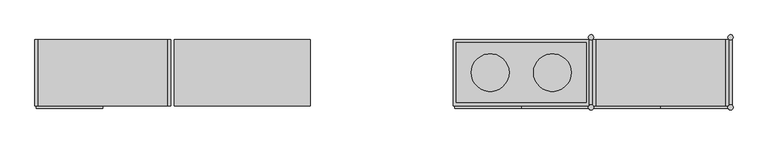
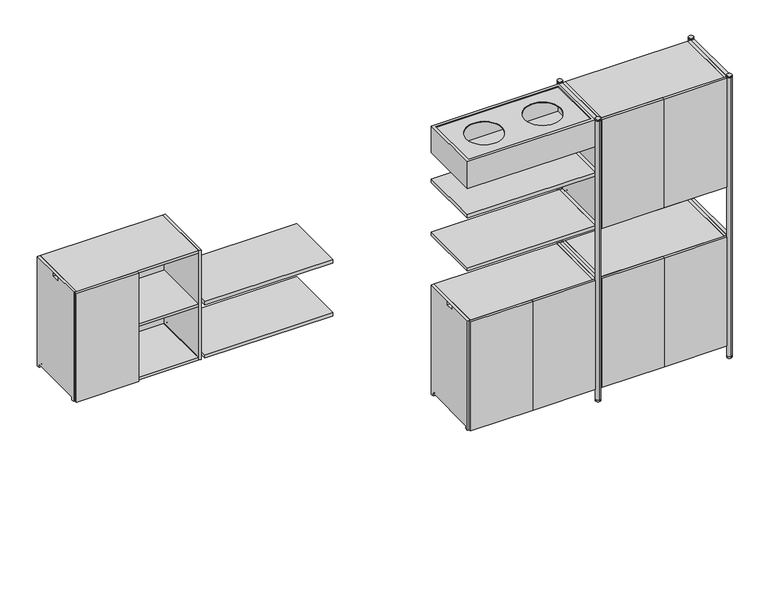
"""IFC4 building model written with IfcOpenShell, lengths in millimetres: furniture geometry, MAKR_TEMPLATE_900mmL : MAKR_TEMPLATE_900mmL."""

from ifc_helpers import new_model, si_unit, point, frame, frame_2d, origin, origin_with_axes, place, context, project, spatial, polyline, circle_curve, trimmed, segment, composite_curve, outline, extrude, source, transform, mapped, element, save
from ifc_brep_helpers import plane_surface, revolved_surface, advanced_brep


def furniture_001ad764(model_context):
    return source(origin(), model_context, "Body", "SolidModel", [
        extrude(outline(polyline([(1375.0, 218.5217186), (1375.0, -221.4782814), (475.0, -221.4782814), (475.0, 218.5217186), (1375.0, 218.5217186)])), frame((0.0, 0.0, 1274.0), z_axis=(0.0, 0.0, 1.0), x_axis=(1.0, 0.0, 0.0)), (0.0, 0.0, 1.0), 25.0),
        extrude(outline(polyline([(1375.0, 218.5217186), (1375.0, -221.4782814), (475.0, -221.4782814), (475.0, 218.5217186), (1375.0, 218.5217186)])), frame((0.0, 0.0, 1669.0), z_axis=(0.0, 0.0, 1.0), x_axis=(1.0, 0.0, 0.0)), (0.0, 0.0, 1.0), 25.0),
        extrude(outline(composite_curve([segment(polyline([(-221.4782814, 2089.0), (218.5217186, 2089.0), (218.5217186, 1274.0), (196.5217186, 1274.0), (196.5217186, 1291.0)]), True, "CONTINUOUS"), segment(trimmed(circle_curve(frame_2d((192.5217186, 1291.0)), 4.0), [point((196.5217186, 1291.0))], [point((192.5217186, 1295.0))], True, "CARTESIAN"), True, "CONTINUOUS"), segment(polyline([(192.5217186, 1295.0), (-195.4782814, 1295.0)]), True, "CONTINUOUS"), segment(trimmed(circle_curve(frame_2d((-195.4782814, 1291.0)), 4.0), [point((-195.4782814, 1295.0))], [point((-199.4782814, 1291.0))], True, "CARTESIAN"), True, "CONTINUOUS"), segment(polyline([(-199.4782814, 1291.0), (-199.4782814, 1274.0), (-221.4782814, 1274.0), (-221.4782814, 2089.0)]), True, "CONTINUOUS")], self_intersect=False), holes=[polyline([(-27.4782814, 2084.0), (-27.4782814, 2059.0), (24.5217186, 2059.0), (24.5217186, 2084.0), (-27.4782814, 2084.0)])]), frame((1400.0, 0.0, 0.0), z_axis=(1.0, 0.0, 0.0), x_axis=(0.0, 1.0, 0.0)), (0.0, 0.0, 1.0), 18.0),
        advanced_brep(
        [(2282.0, 218.5217186, 1292.0), (1418.0, 218.5217186, 1292.0), (1418.0, 196.394702, 1292.0), (1423.8980785, 196.394702, 1292.0), (1423.8980785, -199.3512647, 1292.0), (1418.0, -199.3512647, 1292.0), (1418.0, -221.4782814, 1292.0), (2282.0, -221.4782814, 1292.0), (2282.0, 218.5217186, 1274.0), (2282.0, -221.4782814, 1274.0), (1418.0, -221.4782814, 1274.0), (1418.0, -199.4782814, 1274.0), (1423.8980785, -199.4782814, 1274.0), (1423.8980785, 196.5217186, 1274.0), (1418.0, 196.5217186, 1274.0), (1418.0, 218.5217186, 1274.0), (1418.0, 196.5217186, 1291.0), (1418.0, -199.4782814, 1291.0), (1423.8980785, 196.5217186, 1291.0), (1423.8980785, -199.4782814, 1291.0)],
        [
            (0, 1),
            (1, 2),
            (2, 3),
            (3, 4),
            (4, 5),
            (5, 6),
            (6, 7),
            (7, 0),
            (8, 9),
            (9, 10),
            (10, 11),
            (11, 12),
            (12, 13),
            (13, 14),
            (14, 15),
            (15, 8),
            (0, 8),
            (15, 1),
            (14, 16),
            (16, 2, circle_curve(frame((1418.0, 192.5217186, 1291.0), z_axis=(1.0, 0.0, 0.0), x_axis=(0.0, 1.0, 0.0)), 4.0)),
            (10, 6),
            (5, 17, circle_curve(frame((1418.0, -195.4782814, 1291.0), z_axis=(1.0, 0.0, 0.0), x_axis=(0.0, 1.0, 0.0)), 4.0)),
            (17, 11),
            (9, 7),
            (18, 13),
            (12, 19),
            (19, 4, circle_curve(frame((1423.8980785, -195.4782814, 1291.0), z_axis=(-1.0, 0.0, 0.0), x_axis=(0.0, 1.0, 0.0)), 4.0)),
            (3, 18, circle_curve(frame((1423.8980785, 192.5217186, 1291.0), z_axis=(-1.0, 0.0, 0.0), x_axis=(0.0, 1.0, 0.0)), 4.0)),
            (19, 17),
            (18, 16),
        ],
        [
            plane_surface(frame((1418.0, 218.5217186, 1292.0), z_axis=(0.0, 0.0, 1.0), x_axis=(-1.0, 0.0, 0.0))),
            plane_surface(frame((1418.0, 218.5217186, 1274.0), z_axis=(0.0, 0.0, -1.0), x_axis=(1.0, 0.0, 0.0))),
            plane_surface(frame((2282.0, 218.5217186, 1292.0), z_axis=(0.0, 1.0, 0.0), x_axis=(0.0, 0.0, -1.0))),
            plane_surface(frame((1418.0, 218.5217186, 1292.0), z_axis=(-1.0, 0.0, 0.0), x_axis=(0.0, 0.0, -1.0))),
            plane_surface(frame((1418.0, -221.4782814, 1292.0), z_axis=(0.0, -1.0, 0.0), x_axis=(0.0, 0.0, -1.0))),
            plane_surface(frame((2282.0, -221.4782814, 1292.0), z_axis=(1.0, 0.0, 0.0), x_axis=(0.0, 0.0, -1.0))),
            plane_surface(frame((1423.8980785, -191.4782814, 1291.0), z_axis=(-1.0, 0.0, 0.0), x_axis=(0.0, 0.0, 1.0))),
            revolved_surface(polyline([(1423.8980785, -191.4782814, 1291.0), (1418.0, -191.4782814, 1291.0)]), (1393.9541772, -195.4782814, 1291.0), (1.0, 0.0, 0.0)),
            plane_surface(frame((1423.8980785, -199.4782814, 1291.0), z_axis=(0.0, 1.0, 0.0), x_axis=(-1.0, 0.0, 0.0))),
            plane_surface(frame((1423.8980785, 196.5217186, 1274.0), z_axis=(0.0, -1.0, 0.0), x_axis=(-1.0, 0.0, 0.0))),
            revolved_surface(polyline([(1423.8980785, 196.5217186, 1291.0), (1418.0, 196.5217186, 1291.0)]), (1393.9541772, 192.5217186, 1291.0), (1.0, 0.0, 0.0)),
        ],
        [
            (0, [[1, 2, 3, 4, 5, 6, 7, 8]]),
            (1, [[9, 10, 11, 12, 13, 14, 15, 16]]),
            (2, [[-1, 17, -16, 18]]),
            (3, [[-18, -15, 19, 20, -2]]),
            (3, [[21, -6, 22, 23, -11]]),
            (4, [[-7, -21, -10, 24]]),
            (5, [[-8, -24, -9, -17]]),
            (6, [[25, -13, 26, 27, -4, 28]]),
            (7, [[-27, 29, -22, -5]]),
            (8, [[-26, -12, -23, -29]]),
            (9, [[-25, 30, -19, -14]]),
            (10, [[-28, -3, -20, -30]]),
        ],
    ),
        extrude(outline(composite_curve([segment(polyline([(-221.4782814, 2089.0), (218.5217186, 2089.0), (218.5217186, 1274.0), (196.5217186, 1274.0), (196.5217186, 1291.0)]), True, "CONTINUOUS"), segment(trimmed(circle_curve(frame_2d((192.5217186, 1291.0)), 4.0), [point((196.5217186, 1291.0))], [point((192.5217186, 1295.0))], True, "CARTESIAN"), True, "CONTINUOUS"), segment(polyline([(192.5217186, 1295.0), (-195.4782814, 1295.0)]), True, "CONTINUOUS"), segment(trimmed(circle_curve(frame_2d((-195.4782814, 1291.0)), 4.0), [point((-195.4782814, 1295.0))], [point((-199.4782814, 1291.0))], True, "CARTESIAN"), True, "CONTINUOUS"), segment(polyline([(-199.4782814, 1291.0), (-199.4782814, 1274.0), (-221.4782814, 1274.0), (-221.4782814, 2089.0)]), True, "CONTINUOUS")], self_intersect=False), holes=[polyline([(-27.4782814, 2084.0), (-27.4782814, 2059.0), (24.5217186, 2059.0), (24.5217186, 2084.0), (-27.4782814, 2084.0)])]), frame((2282.0, 0.0, 0.0), z_axis=(1.0, 0.0, 0.0), x_axis=(0.0, 1.0, 0.0)), (0.0, 0.0, 1.0), 18.0),
        extrude(outline(polyline([(2282.0, 218.5217186), (2282.0, 200.5217186), (1418.0, 200.5217186), (1418.0, 218.5217186), (2282.0, 218.5217186)])), frame((0.0, 0.0, 1292.0), z_axis=(0.0, 0.0, 1.0), x_axis=(1.0, 0.0, 0.0)), (0.0, 0.0, 1.0), 779.0),
        extrude(outline(polyline([(2282.0, 200.5217186), (2282.0, -221.4782814), (1418.0, -221.4782814), (1418.0, 200.5217186), (2282.0, 200.5217186)])), frame((0.0, 0.0, 1672.5), z_axis=(0.0, 0.0, 1.0), x_axis=(1.0, 0.0, 0.0)), (0.0, 0.0, 1.0), 18.0),
        extrude(outline(polyline([(2282.0, 218.5217186), (2282.0, -221.4782814), (1418.0, -221.4782814), (1418.0, 218.5217186), (2282.0, 218.5217186)])), frame((0.0, 0.0, 2071.0), z_axis=(0.0, 0.0, 1.0), x_axis=(1.0, 0.0, 0.0)), (0.0, 0.0, 1.0), 18.0),
        extrude(outline(polyline([(1859.0, 200.5217186), (1859.0, -221.4782814), (1841.0, -221.4782814), (1841.0, 200.5217186), (1859.0, 200.5217186)])), frame((0.0, 0.0, 1292.0), z_axis=(0.0, 0.0, 1.0), x_axis=(1.0, 0.0, 0.0)), (0.0, 0.0, 1.0), 779.0),
        extrude(outline(polyline([(2291.0, -221.4782814), (2291.0, -239.4782814), (1851.0, -239.4782814), (1851.0, -221.4782814), (2291.0, -221.4782814)])), frame((0.0, 0.0, 1276.0), z_axis=(0.0, 0.0, 1.0), x_axis=(1.0, 0.0, 0.0)), (0.0, 0.0, 1.0), 811.0),
        extrude(outline(polyline([(1409.0, -221.4782814), (1849.0, -221.4782814), (1849.0, -239.4782814), (1409.0, -239.4782814), (1409.0, -221.4782814)])), frame((0.0, 0.0, 1276.0), z_axis=(0.0, 0.0, 1.0), x_axis=(1.0, 0.0, 0.0)), (0.0, 0.0, 1.0), 811.0),
        extrude(outline(composite_curve([segment(polyline([(218.5217186, 904.0), (218.5217186, 89.0), (196.5217186, 89.0), (196.5217186, 106.0)]), True, "CONTINUOUS"), segment(trimmed(circle_curve(frame_2d((192.5217186, 106.0)), 4.0), [point((196.5217186, 106.0))], [point((192.5217186, 110.0))], True, "CARTESIAN"), True, "CONTINUOUS"), segment(polyline([(192.5217186, 110.0), (-195.4782814, 110.0)]), True, "CONTINUOUS"), segment(trimmed(circle_curve(frame_2d((-195.4782814, 106.0)), 4.0), [point((-195.4782814, 110.0))], [point((-199.4782814, 106.0))], True, "CARTESIAN"), True, "CONTINUOUS"), segment(polyline([(-199.4782814, 106.0), (-199.4782814, 89.0), (-221.4782814, 89.0), (-221.4782814, 904.0), (218.5217186, 904.0)]), True, "CONTINUOUS")], self_intersect=False), holes=[polyline([(-27.4782814, 874.0), (24.5217186, 874.0), (24.5217186, 899.0), (-27.4782814, 899.0), (-27.4782814, 874.0)])]), frame((2282.0, 0.0, 0.0), z_axis=(1.0, 0.0, 0.0), x_axis=(0.0, 1.0, 0.0)), (0.0, 0.0, 1.0), 18.0),
        advanced_brep(
        [(1418.0, 218.5217186, 107.0), (1418.0, -221.4782814, 107.0), (2282.0, -221.4782814, 107.0), (2282.0, -199.3512647, 107.0), (2276.1019215, -199.3512647, 107.0), (2276.1019215, 196.394702, 107.0), (2282.0, 196.394702, 107.0), (2282.0, 218.5217186, 107.0), (1418.0, 218.5217186, 89.0), (2282.0, 218.5217186, 89.0), (2282.0, 196.5217186, 89.0), (2276.1019215, 196.5217186, 89.0), (2276.1019215, -199.4782814, 89.0), (2282.0, -199.4782814, 89.0), (2282.0, -221.4782814, 89.0), (1418.0, -221.4782814, 89.0), (2282.0, 196.5217186, 106.0), (2282.0, -199.4782814, 106.0), (2276.1019215, 196.5217186, 106.0), (2276.1019215, -199.4782814, 106.0)],
        [
            (0, 1),
            (1, 2),
            (2, 3),
            (3, 4),
            (4, 5),
            (5, 6),
            (6, 7),
            (7, 0),
            (8, 9),
            (9, 10),
            (10, 11),
            (11, 12),
            (12, 13),
            (13, 14),
            (14, 15),
            (15, 8),
            (7, 9),
            (8, 0),
            (6, 16, circle_curve(frame((2282.0, 192.5217186, 106.0), z_axis=(-1.0, 0.0, 0.0), x_axis=(0.0, 1.0, 0.0)), 4.0)),
            (16, 10),
            (13, 17),
            (17, 3, circle_curve(frame((2282.0, -195.4782814, 106.0), z_axis=(-1.0, 0.0, 0.0), x_axis=(0.0, 1.0, 0.0)), 4.0)),
            (2, 14),
            (1, 15),
            (18, 5, circle_curve(frame((2276.1019215, 192.5217186, 106.0), z_axis=(1.0, 0.0, 0.0), x_axis=(0.0, 1.0, 0.0)), 4.0)),
            (4, 19, circle_curve(frame((2276.1019215, -195.4782814, 106.0), z_axis=(1.0, 0.0, 0.0), x_axis=(0.0, 1.0, 0.0)), 4.0)),
            (19, 12),
            (11, 18),
            (17, 19),
            (16, 18),
        ],
        [
            plane_surface(frame((2282.0, 218.5217186, 107.0), z_axis=(0.0, 0.0, 1.0), x_axis=(1.0, 0.0, 0.0))),
            plane_surface(frame((2282.0, 218.5217186, 89.0), z_axis=(0.0, 0.0, -1.0), x_axis=(-1.0, 0.0, 0.0))),
            plane_surface(frame((1418.0, 218.5217186, 107.0), z_axis=(0.0, 1.0, 0.0), x_axis=(0.0, 0.0, -1.0))),
            plane_surface(frame((2282.0, 218.5217186, 107.0), z_axis=(1.0, 0.0, 0.0), x_axis=(0.0, 0.0, -1.0))),
            plane_surface(frame((2282.0, -221.4782814, 107.0), z_axis=(0.0, -1.0, 0.0), x_axis=(0.0, 0.0, -1.0))),
            plane_surface(frame((1418.0, -221.4782814, 107.0), z_axis=(-1.0, 0.0, 0.0), x_axis=(0.0, 0.0, -1.0))),
            plane_surface(frame((2276.1019215, -191.4782814, 106.0), z_axis=(1.0, 0.0, 0.0), x_axis=(0.0, 0.0, 1.0))),
            revolved_surface(polyline([(2276.1019215, -191.4782814, 106.0), (2282.0, -191.4782814, 106.0)]), (2306.0458228, -195.4782814, 106.0), (-1.0, 0.0, 0.0)),
            plane_surface(frame((2276.1019215, -199.4782814, 106.0), z_axis=(0.0, 1.0, 0.0), x_axis=(1.0, 0.0, 0.0))),
            plane_surface(frame((2276.1019215, 196.5217186, 89.0), z_axis=(0.0, -1.0, 0.0), x_axis=(1.0, 0.0, 0.0))),
            revolved_surface(polyline([(2276.1019215, 196.5217186, 106.0), (2282.0, 196.5217186, 106.0)]), (2306.0458228, 192.5217186, 106.0), (-1.0, 0.0, 0.0)),
        ],
        [
            (0, [[1, 2, 3, 4, 5, 6, 7, 8]]),
            (1, [[9, 10, 11, 12, 13, 14, 15, 16]]),
            (2, [[17, -9, 18, -8]]),
            (3, [[-7, 19, 20, -10, -17]]),
            (3, [[-14, 21, 22, -3, 23]]),
            (4, [[24, -15, -23, -2]]),
            (5, [[-18, -16, -24, -1]]),
            (6, [[25, -5, 26, 27, -12, 28]]),
            (7, [[-4, -22, 29, -26]]),
            (8, [[-29, -21, -13, -27]]),
            (9, [[-11, -20, 30, -28]]),
            (10, [[-30, -19, -6, -25]]),
        ],
    ),
        extrude(outline(composite_curve([segment(polyline([(218.5217186, 904.0), (218.5217186, 89.0), (196.5217186, 89.0), (196.5217186, 106.0)]), True, "CONTINUOUS"), segment(trimmed(circle_curve(frame_2d((192.5217186, 106.0)), 4.0), [point((196.5217186, 106.0))], [point((192.5217186, 110.0))], True, "CARTESIAN"), True, "CONTINUOUS"), segment(polyline([(192.5217186, 110.0), (-195.4782814, 110.0)]), True, "CONTINUOUS"), segment(trimmed(circle_curve(frame_2d((-195.4782814, 106.0)), 4.0), [point((-195.4782814, 110.0))], [point((-199.4782814, 106.0))], True, "CARTESIAN"), True, "CONTINUOUS"), segment(polyline([(-199.4782814, 106.0), (-199.4782814, 89.0), (-221.4782814, 89.0), (-221.4782814, 904.0), (218.5217186, 904.0)]), True, "CONTINUOUS")], self_intersect=False), holes=[polyline([(-27.4782814, 874.0), (24.5217186, 874.0), (24.5217186, 899.0), (-27.4782814, 899.0), (-27.4782814, 874.0)])]), frame((1400.0, 0.0, 0.0), z_axis=(1.0, 0.0, 0.0), x_axis=(0.0, 1.0, 0.0)), (0.0, 0.0, 1.0), 18.0),
        extrude(outline(polyline([(1418.0, 218.5217186), (2282.0, 218.5217186), (2282.0, 200.5217186), (1418.0, 200.5217186), (1418.0, 218.5217186)])), frame((0.0, 0.0, 107.0), z_axis=(0.0, 0.0, 1.0), x_axis=(1.0, 0.0, 0.0)), (0.0, 0.0, 1.0), 779.0),
        extrude(outline(polyline([(1418.0, 200.5217186), (2282.0, 200.5217186), (2282.0, -221.4782814), (1418.0, -221.4782814), (1418.0, 200.5217186)])), frame((0.0, 0.0, 487.5), z_axis=(0.0, 0.0, 1.0), x_axis=(1.0, 0.0, 0.0)), (0.0, 0.0, 1.0), 18.0),
        extrude(outline(polyline([(1418.0, 218.5217186), (2282.0, 218.5217186), (2282.0, -221.4782814), (1418.0, -221.4782814), (1418.0, 218.5217186)])), frame((0.0, 0.0, 886.0), z_axis=(0.0, 0.0, 1.0), x_axis=(1.0, 0.0, 0.0)), (0.0, 0.0, 1.0), 18.0),
        extrude(outline(polyline([(1841.0, 200.5217186), (1859.0, 200.5217186), (1859.0, -221.4782814), (1841.0, -221.4782814), (1841.0, 200.5217186)])), frame((0.0, 0.0, 107.0), z_axis=(0.0, 0.0, 1.0), x_axis=(1.0, 0.0, 0.0)), (0.0, 0.0, 1.0), 779.0),
        extrude(outline(polyline([(1409.0, -221.4782814), (1849.0, -221.4782814), (1849.0, -239.4782814), (1409.0, -239.4782814), (1409.0, -221.4782814)])), frame((0.0, 0.0, 91.0), z_axis=(0.0, 0.0, 1.0), x_axis=(1.0, 0.0, 0.0)), (0.0, 0.0, 1.0), 811.0),
        extrude(outline(polyline([(2291.0, -221.4782814), (2291.0, -239.4782814), (1851.0, -239.4782814), (1851.0, -221.4782814), (2291.0, -221.4782814)])), frame((0.0, 0.0, 91.0), z_axis=(0.0, 0.0, 1.0), x_axis=(1.0, 0.0, 0.0)), (0.0, 0.0, 1.0), 811.0),
        extrude(outline(composite_curve([segment(polyline([(218.5217186, 904.0), (218.5217186, 89.0), (196.5217186, 89.0), (196.5217186, 106.0)]), True, "CONTINUOUS"), segment(trimmed(circle_curve(frame_2d((192.5217186, 106.0)), 4.0), [point((196.5217186, 106.0))], [point((192.5217186, 110.0))], True, "CARTESIAN"), True, "CONTINUOUS"), segment(polyline([(192.5217186, 110.0), (-195.4782814, 110.0)]), True, "CONTINUOUS"), segment(trimmed(circle_curve(frame_2d((-195.4782814, 106.0)), 4.0), [point((-195.4782814, 110.0))], [point((-199.4782814, 106.0))], True, "CARTESIAN"), True, "CONTINUOUS"), segment(polyline([(-199.4782814, 106.0), (-199.4782814, 89.0), (-221.4782814, 89.0), (-221.4782814, 904.0), (218.5217186, 904.0)]), True, "CONTINUOUS")], self_intersect=False), holes=[polyline([(-27.4782814, 874.0), (24.5217186, 874.0), (24.5217186, 899.0), (-27.4782814, 899.0), (-27.4782814, 874.0)])]), frame((1357.0, 0.0, 0.0), z_axis=(1.0, 0.0, 0.0), x_axis=(0.0, 1.0, 0.0)), (0.0, 0.0, 1.0), 18.0),
        advanced_brep(
        [(493.0, 218.5217186, 107.0), (493.0, -221.4782814, 107.0), (1357.0, -221.4782814, 107.0), (1357.0, -199.3512647, 107.0), (1351.1019215, -199.3512647, 107.0), (1351.1019215, 196.394702, 107.0), (1357.0, 196.394702, 107.0), (1357.0, 218.5217186, 107.0), (493.0, 218.5217186, 89.0), (1357.0, 218.5217186, 89.0), (1357.0, 196.5217186, 89.0), (1351.1019215, 196.5217186, 89.0), (1351.1019215, -199.4782814, 89.0), (1357.0, -199.4782814, 89.0), (1357.0, -221.4782814, 89.0), (493.0, -221.4782814, 89.0), (1357.0, 196.5217186, 106.0), (1357.0, -199.4782814, 106.0), (1351.1019215, 196.5217186, 106.0), (1351.1019215, -199.4782814, 106.0)],
        [
            (0, 1),
            (1, 2),
            (2, 3),
            (3, 4),
            (4, 5),
            (5, 6),
            (6, 7),
            (7, 0),
            (8, 9),
            (9, 10),
            (10, 11),
            (11, 12),
            (12, 13),
            (13, 14),
            (14, 15),
            (15, 8),
            (7, 9),
            (8, 0),
            (6, 16, circle_curve(frame((1357.0, 192.5217186, 106.0), z_axis=(-1.0, 0.0, 0.0), x_axis=(0.0, 1.0, 0.0)), 4.0)),
            (16, 10),
            (13, 17),
            (17, 3, circle_curve(frame((1357.0, -195.4782814, 106.0), z_axis=(-1.0, 0.0, 0.0), x_axis=(0.0, 1.0, 0.0)), 4.0)),
            (2, 14),
            (1, 15),
            (18, 5, circle_curve(frame((1351.1019215, 192.5217186, 106.0), z_axis=(1.0, 0.0, 0.0), x_axis=(0.0, 1.0, 0.0)), 4.0)),
            (4, 19, circle_curve(frame((1351.1019215, -195.4782814, 106.0), z_axis=(1.0, 0.0, 0.0), x_axis=(0.0, 1.0, 0.0)), 4.0)),
            (19, 12),
            (11, 18),
            (17, 19),
            (16, 18),
        ],
        [
            plane_surface(frame((1357.0, 218.5217186, 107.0), z_axis=(0.0, 0.0, 1.0), x_axis=(1.0, 0.0, 0.0))),
            plane_surface(frame((1357.0, 218.5217186, 89.0), z_axis=(0.0, 0.0, -1.0), x_axis=(-1.0, 0.0, 0.0))),
            plane_surface(frame((493.0, 218.5217186, 107.0), z_axis=(0.0, 1.0, 0.0), x_axis=(0.0, 0.0, -1.0))),
            plane_surface(frame((1357.0, 218.5217186, 107.0), z_axis=(1.0, 0.0, 0.0), x_axis=(0.0, 0.0, -1.0))),
            plane_surface(frame((1357.0, -221.4782814, 107.0), z_axis=(0.0, -1.0, 0.0), x_axis=(0.0, 0.0, -1.0))),
            plane_surface(frame((493.0, -221.4782814, 107.0), z_axis=(-1.0, 0.0, 0.0), x_axis=(0.0, 0.0, -1.0))),
            plane_surface(frame((1351.1019215, -191.4782814, 106.0), z_axis=(1.0, 0.0, 0.0), x_axis=(0.0, 0.0, 1.0))),
            revolved_surface(polyline([(1351.1019215, -191.4782814, 106.0), (1357.0, -191.4782814, 106.0)]), (1381.0458228, -195.4782814, 106.0), (-1.0, 0.0, 0.0)),
            plane_surface(frame((1351.1019215, -199.4782814, 106.0), z_axis=(0.0, 1.0, 0.0), x_axis=(1.0, 0.0, 0.0))),
            plane_surface(frame((1351.1019215, 196.5217186, 89.0), z_axis=(0.0, -1.0, 0.0), x_axis=(1.0, 0.0, 0.0))),
            revolved_surface(polyline([(1351.1019215, 196.5217186, 106.0), (1357.0, 196.5217186, 106.0)]), (1381.0458228, 192.5217186, 106.0), (-1.0, 0.0, 0.0)),
        ],
        [
            (0, [[1, 2, 3, 4, 5, 6, 7, 8]]),
            (1, [[9, 10, 11, 12, 13, 14, 15, 16]]),
            (2, [[17, -9, 18, -8]]),
            (3, [[-7, 19, 20, -10, -17]]),
            (3, [[-14, 21, 22, -3, 23]]),
            (4, [[24, -15, -23, -2]]),
            (5, [[-18, -16, -24, -1]]),
            (6, [[25, -5, 26, 27, -12, 28]]),
            (7, [[-4, -22, 29, -26]]),
            (8, [[-29, -21, -13, -27]]),
            (9, [[-11, -20, 30, -28]]),
            (10, [[-30, -19, -6, -25]]),
        ],
    ),
        extrude(outline(composite_curve([segment(polyline([(218.5217186, 904.0), (218.5217186, 89.0), (196.5217186, 89.0), (196.5217186, 106.0)]), True, "CONTINUOUS"), segment(trimmed(circle_curve(frame_2d((192.5217186, 106.0)), 4.0), [point((196.5217186, 106.0))], [point((192.5217186, 110.0))], True, "CARTESIAN"), True, "CONTINUOUS"), segment(polyline([(192.5217186, 110.0), (-195.4782814, 110.0)]), True, "CONTINUOUS"), segment(trimmed(circle_curve(frame_2d((-195.4782814, 106.0)), 4.0), [point((-195.4782814, 110.0))], [point((-199.4782814, 106.0))], True, "CARTESIAN"), True, "CONTINUOUS"), segment(polyline([(-199.4782814, 106.0), (-199.4782814, 89.0), (-221.4782814, 89.0), (-221.4782814, 904.0), (218.5217186, 904.0)]), True, "CONTINUOUS")], self_intersect=False), holes=[polyline([(-27.4782814, 874.0), (24.5217186, 874.0), (24.5217186, 899.0), (-27.4782814, 899.0), (-27.4782814, 874.0)])]), frame((475.0, 0.0, 0.0), z_axis=(1.0, 0.0, 0.0), x_axis=(0.0, 1.0, 0.0)), (0.0, 0.0, 1.0), 18.0),
        extrude(outline(polyline([(493.0, 218.5217186), (1357.0, 218.5217186), (1357.0, 200.5217186), (493.0, 200.5217186), (493.0, 218.5217186)])), frame((0.0, 0.0, 107.0), z_axis=(0.0, 0.0, 1.0), x_axis=(1.0, 0.0, 0.0)), (0.0, 0.0, 1.0), 779.0),
        extrude(outline(polyline([(493.0, 200.5217186), (1357.0, 200.5217186), (1357.0, -221.4782814), (493.0, -221.4782814), (493.0, 200.5217186)])), frame((0.0, 0.0, 487.5), z_axis=(0.0, 0.0, 1.0), x_axis=(1.0, 0.0, 0.0)), (0.0, 0.0, 1.0), 18.0),
        extrude(outline(polyline([(493.0, 218.5217186), (1357.0, 218.5217186), (1357.0, -221.4782814), (493.0, -221.4782814), (493.0, 218.5217186)])), frame((0.0, 0.0, 886.0), z_axis=(0.0, 0.0, 1.0), x_axis=(1.0, 0.0, 0.0)), (0.0, 0.0, 1.0), 18.0),
        extrude(outline(polyline([(916.0, 200.5217186), (934.0, 200.5217186), (934.0, -221.4782814), (916.0, -221.4782814), (916.0, 200.5217186)])), frame((0.0, 0.0, 107.0), z_axis=(0.0, 0.0, 1.0), x_axis=(1.0, 0.0, 0.0)), (0.0, 0.0, 1.0), 779.0),
        extrude(outline(polyline([(484.0, -221.4782814), (924.0, -221.4782814), (924.0, -239.4782814), (484.0, -239.4782814), (484.0, -221.4782814)])), frame((0.0, 0.0, 91.0), z_axis=(0.0, 0.0, 1.0), x_axis=(1.0, 0.0, 0.0)), (0.0, 0.0, 1.0), 811.0),
        extrude(outline(polyline([(1366.0, -221.4782814), (1366.0, -239.4782814), (926.0, -239.4782814), (926.0, -221.4782814), (1366.0, -221.4782814)])), frame((0.0, 0.0, 91.0), z_axis=(0.0, 0.0, 1.0), x_axis=(1.0, 0.0, 0.0)), (0.0, 0.0, 1.0), 811.0),
        extrude(outline(composite_curve([segment(polyline([(2325.0, 221.4782814), (2325.0, -221.4782814)]), True, "CONTINUOUS"), segment(trimmed(circle_curve(frame_2d((2312.5, -233.0)), 17.0), [point((2325.0, -221.4782814))], [point((2300.0, -221.4782814))], True, "CARTESIAN"), True, "CONTINUOUS"), segment(polyline([(2300.0, -221.4782814), (2300.0, 221.4782814)]), True, "CONTINUOUS"), segment(trimmed(circle_curve(frame_2d((2312.5, 233.0)), 17.0), [point((2300.0, 221.4782814))], [point((2325.0, 221.4782814))], True, "CARTESIAN"), True, "CONTINUOUS")], self_intersect=False)), frame((0.0, 0.0, 2064.0), z_axis=(0.0, 0.0, 1.0), x_axis=(1.0, 0.0, 0.0)), (0.0, 0.0, 1.0), 25.0),
        extrude(outline(composite_curve([segment(polyline([(2325.0, 221.4782814), (2325.0, -221.4782814)]), True, "CONTINUOUS"), segment(trimmed(circle_curve(frame_2d((2312.5, -233.0)), 17.0), [point((2325.0, -221.4782814))], [point((2300.0, -221.4782814))], True, "CARTESIAN"), True, "CONTINUOUS"), segment(polyline([(2300.0, -221.4782814), (2300.0, 221.4782814)]), True, "CONTINUOUS"), segment(trimmed(circle_curve(frame_2d((2312.5, 233.0)), 17.0), [point((2300.0, 221.4782814))], [point((2325.0, 221.4782814))], True, "CARTESIAN"), True, "CONTINUOUS")], self_intersect=False)), frame((0.0, 0.0, 1669.0), z_axis=(0.0, 0.0, 1.0), x_axis=(1.0, 0.0, 0.0)), (0.0, 0.0, 1.0), 25.0),
        extrude(outline(composite_curve([segment(polyline([(2325.0, 221.4782814), (2325.0, -221.4782814)]), True, "CONTINUOUS"), segment(trimmed(circle_curve(frame_2d((2312.5, -233.0)), 17.0), [point((2325.0, -221.4782814))], [point((2300.0, -221.4782814))], True, "CARTESIAN"), True, "CONTINUOUS"), segment(polyline([(2300.0, -221.4782814), (2300.0, 221.4782814)]), True, "CONTINUOUS"), segment(trimmed(circle_curve(frame_2d((2312.5, 233.0)), 17.0), [point((2300.0, 221.4782814))], [point((2325.0, 221.4782814))], True, "CARTESIAN"), True, "CONTINUOUS")], self_intersect=False)), frame((0.0, 0.0, 1274.0), z_axis=(0.0, 0.0, 1.0), x_axis=(1.0, 0.0, 0.0)), (0.0, 0.0, 1.0), 25.0),
        extrude(outline(composite_curve([segment(polyline([(2325.0, 221.4782814), (2325.0, -221.4782814)]), True, "CONTINUOUS"), segment(trimmed(circle_curve(frame_2d((2312.5, -233.0)), 17.0), [point((2325.0, -221.4782814))], [point((2300.0, -221.4782814))], True, "CARTESIAN"), True, "CONTINUOUS"), segment(polyline([(2300.0, -221.4782814), (2300.0, 221.4782814)]), True, "CONTINUOUS"), segment(trimmed(circle_curve(frame_2d((2312.5, 233.0)), 17.0), [point((2300.0, 221.4782814))], [point((2325.0, 221.4782814))], True, "CARTESIAN"), True, "CONTINUOUS")], self_intersect=False)), frame((0.0, 0.0, 879.0), z_axis=(0.0, 0.0, 1.0), x_axis=(1.0, 0.0, 0.0)), (0.0, 0.0, 1.0), 25.0),
        extrude(outline(composite_curve([segment(polyline([(2325.0, 221.4782814), (2325.0, -221.4782814)]), True, "CONTINUOUS"), segment(trimmed(circle_curve(frame_2d((2312.5, -233.0)), 17.0), [point((2325.0, -221.4782814))], [point((2300.0, -221.4782814))], True, "CARTESIAN"), True, "CONTINUOUS"), segment(polyline([(2300.0, -221.4782814), (2300.0, 221.4782814)]), True, "CONTINUOUS"), segment(trimmed(circle_curve(frame_2d((2312.5, 233.0)), 17.0), [point((2300.0, 221.4782814))], [point((2325.0, 221.4782814))], True, "CARTESIAN"), True, "CONTINUOUS")], self_intersect=False)), frame((0.0, 0.0, 484.0), z_axis=(0.0, 0.0, 1.0), x_axis=(1.0, 0.0, 0.0)), (0.0, 0.0, 1.0), 25.0),
        extrude(outline(composite_curve([segment(polyline([(2325.0, 221.4782814), (2325.0, -221.4782814)]), True, "CONTINUOUS"), segment(trimmed(circle_curve(frame_2d((2312.5, -233.0)), 17.0), [point((2325.0, -221.4782814))], [point((2300.0, -221.4782814))], True, "CARTESIAN"), True, "CONTINUOUS"), segment(polyline([(2300.0, -221.4782814), (2300.0, 221.4782814)]), True, "CONTINUOUS"), segment(trimmed(circle_curve(frame_2d((2312.5, 233.0)), 17.0), [point((2300.0, 221.4782814))], [point((2325.0, 221.4782814))], True, "CARTESIAN"), True, "CONTINUOUS")], self_intersect=False)), frame((0.0, 0.0, 89.0), z_axis=(0.0, 0.0, 1.0), x_axis=(1.0, 0.0, 0.0)), (0.0, 0.0, 1.0), 25.0),
        extrude(outline(composite_curve([segment(trimmed(circle_curve(frame_2d((2312.5, -233.0)), 17.0), [point((2312.5, -216.0))], [point((2312.5, -250.0))], False, "CARTESIAN"), True, "CONTINUOUS"), segment(trimmed(circle_curve(frame_2d((2312.5, -233.0)), 17.0), [point((2312.5, -250.0))], [point((2312.5, -216.0))], False, "CARTESIAN"), True, "CONTINUOUS")], self_intersect=False)), frame((0.0, 0.0, 2091.0), z_axis=(0.0, 0.0, 1.0), x_axis=(1.0, 0.0, 0.0)), (0.0, 0.0, 1.0), 9.0),
        extrude(outline(composite_curve([segment(trimmed(circle_curve(frame_2d((2312.5, -233.0)), 17.0), [point((2312.5, -216.0))], [point((2312.5, -250.0))], False, "CARTESIAN"), True, "CONTINUOUS"), segment(trimmed(circle_curve(frame_2d((2312.5, -233.0)), 17.0), [point((2312.5, -250.0))], [point((2312.5, -216.0))], False, "CARTESIAN"), True, "CONTINUOUS")], self_intersect=False)), origin_with_axes(), (0.0, 0.0, 1.0), 9.0),
        extrude(outline(composite_curve([segment(trimmed(circle_curve(frame_2d((2312.5, -233.0)), 17.0), [point((2312.5, -216.0))], [point((2312.5, -250.0))], False, "CARTESIAN"), True, "CONTINUOUS"), segment(trimmed(circle_curve(frame_2d((2312.5, -233.0)), 17.0), [point((2312.5, -250.0))], [point((2312.5, -216.0))], False, "CARTESIAN"), True, "CONTINUOUS")], self_intersect=False)), frame((0.0, 0.0, 9.0), z_axis=(0.0, 0.0, 1.0), x_axis=(1.0, 0.0, 0.0)), (0.0, 0.0, 1.0), 2082.0),
        extrude(outline(composite_curve([segment(trimmed(circle_curve(frame_2d((2312.5, 233.0)), 17.0), [point((2312.5, 216.0))], [point((2312.5, 250.0))], False, "CARTESIAN"), True, "CONTINUOUS"), segment(trimmed(circle_curve(frame_2d((2312.5, 233.0)), 17.0), [point((2312.5, 250.0))], [point((2312.5, 216.0))], False, "CARTESIAN"), True, "CONTINUOUS")], self_intersect=False)), frame((0.0, 0.0, 2091.0), z_axis=(0.0, 0.0, 1.0), x_axis=(1.0, 0.0, 0.0)), (0.0, 0.0, 1.0), 9.0),
        extrude(outline(composite_curve([segment(trimmed(circle_curve(frame_2d((2312.5, 233.0)), 17.0), [point((2312.5, 216.0))], [point((2312.5, 250.0))], False, "CARTESIAN"), True, "CONTINUOUS"), segment(trimmed(circle_curve(frame_2d((2312.5, 233.0)), 17.0), [point((2312.5, 250.0))], [point((2312.5, 216.0))], False, "CARTESIAN"), True, "CONTINUOUS")], self_intersect=False)), origin_with_axes(), (0.0, 0.0, 1.0), 9.0),
        extrude(outline(composite_curve([segment(trimmed(circle_curve(frame_2d((2312.5, 233.0)), 17.0), [point((2312.5, 216.0))], [point((2312.5, 250.0))], False, "CARTESIAN"), True, "CONTINUOUS"), segment(trimmed(circle_curve(frame_2d((2312.5, 233.0)), 17.0), [point((2312.5, 250.0))], [point((2312.5, 216.0))], False, "CARTESIAN"), True, "CONTINUOUS")], self_intersect=False)), frame((0.0, 0.0, 9.0), z_axis=(0.0, 0.0, 1.0), x_axis=(1.0, 0.0, 0.0)), (0.0, 0.0, 1.0), 2082.0),
        extrude(outline(composite_curve([segment(polyline([(1400.0, 221.4782814), (1400.0, -221.4782814)]), True, "CONTINUOUS"), segment(trimmed(circle_curve(frame_2d((1387.5, -233.0)), 17.0), [point((1400.0, -221.4782814))], [point((1375.0, -221.4782814))], True, "CARTESIAN"), True, "CONTINUOUS"), segment(polyline([(1375.0, -221.4782814), (1375.0, 221.4782814)]), True, "CONTINUOUS"), segment(trimmed(circle_curve(frame_2d((1387.5, 233.0)), 17.0), [point((1375.0, 221.4782814))], [point((1400.0, 221.4782814))], True, "CARTESIAN"), True, "CONTINUOUS")], self_intersect=False)), frame((0.0, 0.0, 2064.0), z_axis=(0.0, 0.0, 1.0), x_axis=(1.0, 0.0, 0.0)), (0.0, 0.0, 1.0), 25.0),
        extrude(outline(composite_curve([segment(polyline([(1400.0, 221.4782814), (1400.0, -221.4782814)]), True, "CONTINUOUS"), segment(trimmed(circle_curve(frame_2d((1387.5, -233.0)), 17.0), [point((1400.0, -221.4782814))], [point((1375.0, -221.4782814))], True, "CARTESIAN"), True, "CONTINUOUS"), segment(polyline([(1375.0, -221.4782814), (1375.0, 221.4782814)]), True, "CONTINUOUS"), segment(trimmed(circle_curve(frame_2d((1387.5, 233.0)), 17.0), [point((1375.0, 221.4782814))], [point((1400.0, 221.4782814))], True, "CARTESIAN"), True, "CONTINUOUS")], self_intersect=False)), frame((0.0, 0.0, 1669.0), z_axis=(0.0, 0.0, 1.0), x_axis=(1.0, 0.0, 0.0)), (0.0, 0.0, 1.0), 25.0),
        extrude(outline(composite_curve([segment(polyline([(1400.0, 221.4782814), (1400.0, -221.4782814)]), True, "CONTINUOUS"), segment(trimmed(circle_curve(frame_2d((1387.5, -233.0)), 17.0), [point((1400.0, -221.4782814))], [point((1375.0, -221.4782814))], True, "CARTESIAN"), True, "CONTINUOUS"), segment(polyline([(1375.0, -221.4782814), (1375.0, 221.4782814)]), True, "CONTINUOUS"), segment(trimmed(circle_curve(frame_2d((1387.5, 233.0)), 17.0), [point((1375.0, 221.4782814))], [point((1400.0, 221.4782814))], True, "CARTESIAN"), True, "CONTINUOUS")], self_intersect=False)), frame((0.0, 0.0, 1274.0), z_axis=(0.0, 0.0, 1.0), x_axis=(1.0, 0.0, 0.0)), (0.0, 0.0, 1.0), 25.0),
        extrude(outline(composite_curve([segment(polyline([(1400.0, 221.4782814), (1400.0, -221.4782814)]), True, "CONTINUOUS"), segment(trimmed(circle_curve(frame_2d((1387.5, -233.0)), 17.0), [point((1400.0, -221.4782814))], [point((1375.0, -221.4782814))], True, "CARTESIAN"), True, "CONTINUOUS"), segment(polyline([(1375.0, -221.4782814), (1375.0, 221.4782814)]), True, "CONTINUOUS"), segment(trimmed(circle_curve(frame_2d((1387.5, 233.0)), 17.0), [point((1375.0, 221.4782814))], [point((1400.0, 221.4782814))], True, "CARTESIAN"), True, "CONTINUOUS")], self_intersect=False)), frame((0.0, 0.0, 879.0), z_axis=(0.0, 0.0, 1.0), x_axis=(1.0, 0.0, 0.0)), (0.0, 0.0, 1.0), 25.0),
        extrude(outline(composite_curve([segment(polyline([(1400.0, 221.4782814), (1400.0, -221.4782814)]), True, "CONTINUOUS"), segment(trimmed(circle_curve(frame_2d((1387.5, -233.0)), 17.0), [point((1400.0, -221.4782814))], [point((1375.0, -221.4782814))], True, "CARTESIAN"), True, "CONTINUOUS"), segment(polyline([(1375.0, -221.4782814), (1375.0, 221.4782814)]), True, "CONTINUOUS"), segment(trimmed(circle_curve(frame_2d((1387.5, 233.0)), 17.0), [point((1375.0, 221.4782814))], [point((1400.0, 221.4782814))], True, "CARTESIAN"), True, "CONTINUOUS")], self_intersect=False)), frame((0.0, 0.0, 484.0), z_axis=(0.0, 0.0, 1.0), x_axis=(1.0, 0.0, 0.0)), (0.0, 0.0, 1.0), 25.0),
        extrude(outline(composite_curve([segment(polyline([(1400.0, 221.4782814), (1400.0, -221.4782814)]), True, "CONTINUOUS"), segment(trimmed(circle_curve(frame_2d((1387.5, -233.0)), 17.0), [point((1400.0, -221.4782814))], [point((1375.0, -221.4782814))], True, "CARTESIAN"), True, "CONTINUOUS"), segment(polyline([(1375.0, -221.4782814), (1375.0, 221.4782814)]), True, "CONTINUOUS"), segment(trimmed(circle_curve(frame_2d((1387.5, 233.0)), 17.0), [point((1375.0, 221.4782814))], [point((1400.0, 221.4782814))], True, "CARTESIAN"), True, "CONTINUOUS")], self_intersect=False)), frame((0.0, 0.0, 89.0), z_axis=(0.0, 0.0, 1.0), x_axis=(1.0, 0.0, 0.0)), (0.0, 0.0, 1.0), 25.0),
        extrude(outline(composite_curve([segment(trimmed(circle_curve(frame_2d((1387.5, -233.0)), 17.0), [point((1387.5, -216.0))], [point((1387.5, -250.0))], False, "CARTESIAN"), True, "CONTINUOUS"), segment(trimmed(circle_curve(frame_2d((1387.5, -233.0)), 17.0), [point((1387.5, -250.0))], [point((1387.5, -216.0))], False, "CARTESIAN"), True, "CONTINUOUS")], self_intersect=False)), frame((0.0, 0.0, 2091.0), z_axis=(0.0, 0.0, 1.0), x_axis=(1.0, 0.0, 0.0)), (0.0, 0.0, 1.0), 9.0),
        extrude(outline(composite_curve([segment(trimmed(circle_curve(frame_2d((1387.5, -233.0)), 17.0), [point((1387.5, -216.0))], [point((1387.5, -250.0))], False, "CARTESIAN"), True, "CONTINUOUS"), segment(trimmed(circle_curve(frame_2d((1387.5, -233.0)), 17.0), [point((1387.5, -250.0))], [point((1387.5, -216.0))], False, "CARTESIAN"), True, "CONTINUOUS")], self_intersect=False)), origin_with_axes(), (0.0, 0.0, 1.0), 9.0),
        extrude(outline(composite_curve([segment(trimmed(circle_curve(frame_2d((1387.5, -233.0)), 17.0), [point((1387.5, -216.0))], [point((1387.5, -250.0))], False, "CARTESIAN"), True, "CONTINUOUS"), segment(trimmed(circle_curve(frame_2d((1387.5, -233.0)), 17.0), [point((1387.5, -250.0))], [point((1387.5, -216.0))], False, "CARTESIAN"), True, "CONTINUOUS")], self_intersect=False)), frame((0.0, 0.0, 9.0), z_axis=(0.0, 0.0, 1.0), x_axis=(1.0, 0.0, 0.0)), (0.0, 0.0, 1.0), 2082.0),
        extrude(outline(composite_curve([segment(trimmed(circle_curve(frame_2d((1387.5, 233.0)), 17.0), [point((1387.5, 216.0))], [point((1387.5, 250.0))], False, "CARTESIAN"), True, "CONTINUOUS"), segment(trimmed(circle_curve(frame_2d((1387.5, 233.0)), 17.0), [point((1387.5, 250.0))], [point((1387.5, 216.0))], False, "CARTESIAN"), True, "CONTINUOUS")], self_intersect=False)), frame((0.0, 0.0, 2091.0), z_axis=(0.0, 0.0, 1.0), x_axis=(1.0, 0.0, 0.0)), (0.0, 0.0, 1.0), 9.0),
        extrude(outline(composite_curve([segment(trimmed(circle_curve(frame_2d((1387.5, 233.0)), 17.0), [point((1387.5, 216.0))], [point((1387.5, 250.0))], False, "CARTESIAN"), True, "CONTINUOUS"), segment(trimmed(circle_curve(frame_2d((1387.5, 233.0)), 17.0), [point((1387.5, 250.0))], [point((1387.5, 216.0))], False, "CARTESIAN"), True, "CONTINUOUS")], self_intersect=False)), origin_with_axes(), (0.0, 0.0, 1.0), 9.0),
        extrude(outline(composite_curve([segment(trimmed(circle_curve(frame_2d((1387.5, 233.0)), 17.0), [point((1387.5, 216.0))], [point((1387.5, 250.0))], False, "CARTESIAN"), True, "CONTINUOUS"), segment(trimmed(circle_curve(frame_2d((1387.5, 233.0)), 17.0), [point((1387.5, 250.0))], [point((1387.5, 216.0))], False, "CARTESIAN"), True, "CONTINUOUS")], self_intersect=False)), frame((0.0, 0.0, 9.0), z_axis=(0.0, 0.0, 1.0), x_axis=(1.0, 0.0, 0.0)), (0.0, 0.0, 1.0), 2082.0),
        extrude(outline(polyline([(1375.0, 218.5217186), (1375.0, -221.4782814), (475.0, -221.4782814), (475.0, 218.5217186), (1375.0, 218.5217186)]), holes=[polyline([(495.0, 198.5217186), (495.0, -201.4782814), (1355.0, -201.4782814), (1355.0, 198.5217186), (495.0, 198.5217186)])]), frame((0.0, 0.0, 1889.0), z_axis=(0.0, 0.0, 1.0), x_axis=(1.0, 0.0, 0.0)), (0.0, 0.0, 1.0), 200.0),
        extrude(outline(polyline([(1355.0, 198.5217186), (1355.0, -201.4782814), (495.0, -201.4782814), (495.0, 198.5217186), (1355.0, 198.5217186)])), frame((0.0, 0.0, 1889.0), z_axis=(0.0, 0.0, 1.0), x_axis=(1.0, 0.0, 0.0)), (0.0, 0.0, 1.0), 15.0),
        extrude(outline(polyline([(1355.0, 198.5217186), (1355.0, -201.4782814), (495.0, -201.4782814), (495.0, 198.5217186), (1355.0, 198.5217186)]), holes=[composite_curve([segment(trimmed(circle_curve(frame_2d((719.0, -1.4782814)), 125.0), [point((594.0, -1.4782814))], [point((844.0, -1.4782814))], True, "CARTESIAN"), True, "CONTINUOUS"), segment(trimmed(circle_curve(frame_2d((719.0, -1.4782814)), 125.0), [point((844.0, -1.4782814))], [point((594.0, -1.4782814))], True, "CARTESIAN"), True, "CONTINUOUS")], self_intersect=False), composite_curve([segment(trimmed(circle_curve(frame_2d((1131.0, -1.4782814)), 125.0), [point((1006.0, -1.4782814))], [point((1256.0, -1.4782814))], True, "CARTESIAN"), True, "CONTINUOUS"), segment(trimmed(circle_curve(frame_2d((1131.0, -1.4782814)), 125.0), [point((1256.0, -1.4782814))], [point((1006.0, -1.4782814))], True, "CARTESIAN"), True, "CONTINUOUS")], self_intersect=False)]), frame((0.0, 0.0, 2080.4363245), z_axis=(0.0, 0.0, 1.0), x_axis=(1.0, 0.0, 0.0)), (0.0, 0.0, 1.0), 3.5636755),
        extrude(outline(polyline([(-1375.0, 218.5217186), (-475.0, 218.5217186), (-475.0, -221.4782814), (-1375.0, -221.4782814), (-1375.0, 218.5217186)])), frame((0.0, 0.0, 1274.0), z_axis=(0.0, 0.0, 1.0), x_axis=(1.0, 0.0, 0.0)), (0.0, 0.0, 1.0), 25.0),
        extrude(outline(polyline([(-1375.0, 218.5217186), (-475.0, 218.5217186), (-475.0, -221.4782814), (-1375.0, -221.4782814), (-1375.0, 218.5217186)])), frame((0.0, 0.0, 1669.0), z_axis=(0.0, 0.0, 1.0), x_axis=(1.0, 0.0, 0.0)), (0.0, 0.0, 1.0), 25.0),
        extrude(outline(composite_curve([segment(polyline([(218.5217186, 2089.0), (218.5217186, 1274.0), (196.5217186, 1274.0), (196.5217186, 1291.0)]), True, "CONTINUOUS"), segment(trimmed(circle_curve(frame_2d((192.5217186, 1291.0)), 4.0), [point((196.5217186, 1291.0))], [point((192.5217186, 1295.0))], True, "CARTESIAN"), True, "CONTINUOUS"), segment(polyline([(192.5217186, 1295.0), (-195.4782814, 1295.0)]), True, "CONTINUOUS"), segment(trimmed(circle_curve(frame_2d((-195.4782814, 1291.0)), 4.0), [point((-195.4782814, 1295.0))], [point((-199.4782814, 1291.0))], True, "CARTESIAN"), True, "CONTINUOUS"), segment(polyline([(-199.4782814, 1291.0), (-199.4782814, 1274.0), (-221.4782814, 1274.0), (-221.4782814, 2089.0), (218.5217186, 2089.0)]), True, "CONTINUOUS")], self_intersect=False), holes=[polyline([(-27.4782814, 2059.0), (24.5217186, 2059.0), (24.5217186, 2084.0), (-27.4782814, 2084.0), (-27.4782814, 2059.0)])]), frame((-1418.0, 0.0, 0.0), z_axis=(1.0, 0.0, 0.0), x_axis=(0.0, 1.0, 0.0)), (0.0, 0.0, 1.0), 18.0),
        advanced_brep(
        [(-2282.0, 218.5217186, 1292.0), (-2282.0, -221.4782814, 1292.0), (-1418.0, -221.4782814, 1292.0), (-1418.0, -199.3512647, 1292.0), (-1423.8980785, -199.3512647, 1292.0), (-1423.8980785, 196.394702, 1292.0), (-1418.0, 196.394702, 1292.0), (-1418.0, 218.5217186, 1292.0), (-2282.0, 218.5217186, 1274.0), (-1418.0, 218.5217186, 1274.0), (-1418.0, 196.5217186, 1274.0), (-1423.8980785, 196.5217186, 1274.0), (-1423.8980785, -199.4782814, 1274.0), (-1418.0, -199.4782814, 1274.0), (-1418.0, -221.4782814, 1274.0), (-2282.0, -221.4782814, 1274.0), (-1418.0, 196.5217186, 1291.0), (-1418.0, -199.4782814, 1291.0), (-1423.8980785, 196.5217186, 1291.0), (-1423.8980785, -199.4782814, 1291.0)],
        [
            (0, 1),
            (1, 2),
            (2, 3),
            (3, 4),
            (4, 5),
            (5, 6),
            (6, 7),
            (7, 0),
            (8, 9),
            (9, 10),
            (10, 11),
            (11, 12),
            (12, 13),
            (13, 14),
            (14, 15),
            (15, 8),
            (7, 9),
            (8, 0),
            (6, 16, circle_curve(frame((-1418.0, 192.5217186, 1291.0), z_axis=(-1.0, 0.0, 0.0), x_axis=(0.0, 1.0, 0.0)), 4.0)),
            (16, 10),
            (13, 17),
            (17, 3, circle_curve(frame((-1418.0, -195.4782814, 1291.0), z_axis=(-1.0, 0.0, 0.0), x_axis=(0.0, 1.0, 0.0)), 4.0)),
            (2, 14),
            (1, 15),
            (18, 5, circle_curve(frame((-1423.8980785, 192.5217186, 1291.0), z_axis=(1.0, 0.0, 0.0), x_axis=(0.0, 1.0, 0.0)), 4.0)),
            (4, 19, circle_curve(frame((-1423.8980785, -195.4782814, 1291.0), z_axis=(1.0, 0.0, 0.0), x_axis=(0.0, 1.0, 0.0)), 4.0)),
            (19, 12),
            (11, 18),
            (17, 19),
            (16, 18),
        ],
        [
            plane_surface(frame((-1418.0, 218.5217186, 1292.0), z_axis=(0.0, 0.0, 1.0), x_axis=(1.0, 0.0, 0.0))),
            plane_surface(frame((-1418.0, 218.5217186, 1274.0), z_axis=(0.0, 0.0, -1.0), x_axis=(-1.0, 0.0, 0.0))),
            plane_surface(frame((-2282.0, 218.5217186, 1292.0), z_axis=(0.0, 1.0, 0.0), x_axis=(0.0, 0.0, -1.0))),
            plane_surface(frame((-1418.0, 218.5217186, 1292.0), z_axis=(1.0, 0.0, 0.0), x_axis=(0.0, 0.0, -1.0))),
            plane_surface(frame((-1418.0, -221.4782814, 1292.0), z_axis=(0.0, -1.0, 0.0), x_axis=(0.0, 0.0, -1.0))),
            plane_surface(frame((-2282.0, -221.4782814, 1292.0), z_axis=(-1.0, 0.0, 0.0), x_axis=(0.0, 0.0, -1.0))),
            plane_surface(frame((-1423.8980785, -191.4782814, 1291.0), z_axis=(1.0, 0.0, 0.0), x_axis=(0.0, 0.0, 1.0))),
            revolved_surface(polyline([(-1423.8980785, -191.4782814, 1291.0), (-1418.0, -191.4782814, 1291.0)]), (-1393.9541772, -195.4782814, 1291.0), (-1.0, 0.0, 0.0)),
            plane_surface(frame((-1423.8980785, -199.4782814, 1291.0), z_axis=(0.0, 1.0, 0.0), x_axis=(1.0, 0.0, 0.0))),
            plane_surface(frame((-1423.8980785, 196.5217186, 1274.0), z_axis=(0.0, -1.0, 0.0), x_axis=(1.0, 0.0, 0.0))),
            revolved_surface(polyline([(-1423.8980785, 196.5217186, 1291.0), (-1418.0, 196.5217186, 1291.0)]), (-1393.9541772, 192.5217186, 1291.0), (-1.0, 0.0, 0.0)),
        ],
        [
            (0, [[1, 2, 3, 4, 5, 6, 7, 8]]),
            (1, [[9, 10, 11, 12, 13, 14, 15, 16]]),
            (2, [[17, -9, 18, -8]]),
            (3, [[-7, 19, 20, -10, -17]]),
            (3, [[-14, 21, 22, -3, 23]]),
            (4, [[24, -15, -23, -2]]),
            (5, [[-18, -16, -24, -1]]),
            (6, [[25, -5, 26, 27, -12, 28]]),
            (7, [[-4, -22, 29, -26]]),
            (8, [[-29, -21, -13, -27]]),
            (9, [[-11, -20, 30, -28]]),
            (10, [[-30, -19, -6, -25]]),
        ],
    ),
        extrude(outline(composite_curve([segment(polyline([(218.5217186, 2089.0), (218.5217186, 1274.0), (196.5217186, 1274.0), (196.5217186, 1291.0)]), True, "CONTINUOUS"), segment(trimmed(circle_curve(frame_2d((192.5217186, 1291.0)), 4.0), [point((196.5217186, 1291.0))], [point((192.5217186, 1295.0))], True, "CARTESIAN"), True, "CONTINUOUS"), segment(polyline([(192.5217186, 1295.0), (-195.4782814, 1295.0)]), True, "CONTINUOUS"), segment(trimmed(circle_curve(frame_2d((-195.4782814, 1291.0)), 4.0), [point((-195.4782814, 1295.0))], [point((-199.4782814, 1291.0))], True, "CARTESIAN"), True, "CONTINUOUS"), segment(polyline([(-199.4782814, 1291.0), (-199.4782814, 1274.0), (-221.4782814, 1274.0), (-221.4782814, 2089.0), (218.5217186, 2089.0)]), True, "CONTINUOUS")], self_intersect=False), holes=[polyline([(-27.4782814, 2059.0), (24.5217186, 2059.0), (24.5217186, 2084.0), (-27.4782814, 2084.0), (-27.4782814, 2059.0)])]), frame((-2300.0, 0.0, 0.0), z_axis=(1.0, 0.0, 0.0), x_axis=(0.0, 1.0, 0.0)), (0.0, 0.0, 1.0), 18.0),
        extrude(outline(polyline([(-2282.0, 218.5217186), (-1418.0, 218.5217186), (-1418.0, 200.5217186), (-2282.0, 200.5217186), (-2282.0, 218.5217186)])), frame((0.0, 0.0, 1292.0), z_axis=(0.0, 0.0, 1.0), x_axis=(1.0, 0.0, 0.0)), (0.0, 0.0, 1.0), 779.0),
        extrude(outline(polyline([(-2282.0, 200.5217186), (-1418.0, 200.5217186), (-1418.0, -221.4782814), (-2282.0, -221.4782814), (-2282.0, 200.5217186)])), frame((0.0, 0.0, 1672.5), z_axis=(0.0, 0.0, 1.0), x_axis=(1.0, 0.0, 0.0)), (0.0, 0.0, 1.0), 18.0),
        extrude(outline(polyline([(-2282.0, 218.5217186), (-1418.0, 218.5217186), (-1418.0, -221.4782814), (-2282.0, -221.4782814), (-2282.0, 218.5217186)])), frame((0.0, 0.0, 2071.0), z_axis=(0.0, 0.0, 1.0), x_axis=(1.0, 0.0, 0.0)), (0.0, 0.0, 1.0), 18.0),
        extrude(outline(polyline([(-1859.0, 200.5217186), (-1841.0, 200.5217186), (-1841.0, -221.4782814), (-1859.0, -221.4782814), (-1859.0, 200.5217186)])), frame((0.0, 0.0, 1292.0), z_axis=(0.0, 0.0, 1.0), x_axis=(1.0, 0.0, 0.0)), (0.0, 0.0, 1.0), 779.0),
        extrude(outline(polyline([(-2291.0, -221.4782814), (-1851.0, -221.4782814), (-1851.0, -239.4782814), (-2291.0, -239.4782814), (-2291.0, -221.4782814)])), frame((0.0, 0.0, 1276.0), z_axis=(0.0, 0.0, 1.0), x_axis=(1.0, 0.0, 0.0)), (0.0, 0.0, 1.0), 811.0),
    ])


if __name__ == "__main__":
    model = new_model("IFC4")
    model_context = context("Model", 3, world=origin())
    ifc_project = project(units=[si_unit("LENGTHUNIT", "METRE", prefix="MILLI")], contexts=[model_context])
    site = spatial("IfcSite", under=ifc_project)
    building = spatial("IfcBuilding", under=site)
    placement = place(None, origin())
    furniture_shape = furniture_001ad764(model_context)
    element("IfcFurniture", 1, ObjectType="MAKR_TEMPLATE_900mmL : MAKR_TEMPLATE_900mmL", at=placement, inside=building, context=model_context, shape_type="MappedRepresentation", body=[
        mapped(furniture_shape, transform((0.0, 0.0, 0.0), x_axis=(1.0, 0.0, 0.0), y_axis=(0.0, 1.0, 0.0), z_axis=(0.0, 0.0, 1.0))),
    ])
    save(model, "model.ifc")
